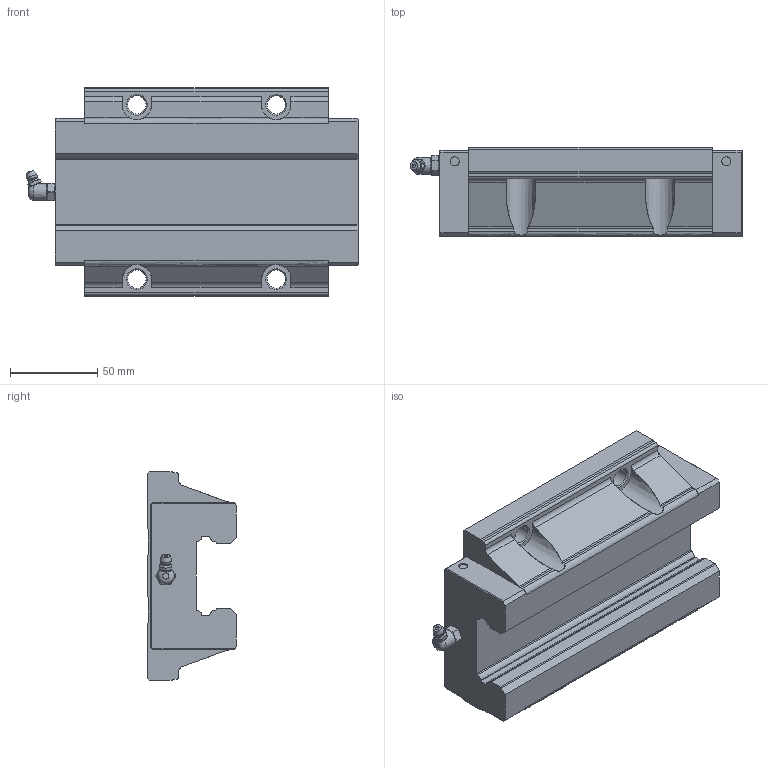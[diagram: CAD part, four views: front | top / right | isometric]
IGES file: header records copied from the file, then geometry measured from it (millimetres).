
Start section: Data from Parasolid IGES Translator 26.0.171, Copyright(c) 2006 Siemens PLM Software. All Rights Reserved.
Global section: file name: SHS45LC1SS(GK) BLOCK(B-PT1_81).igs; native system: By Siemens PLM Incorporated; preprocessor: XPlus GENERIC/IGES 26.0.171; author: Noname; organization: Noname; date: 20240514.043635; units: millimetre
Bounding box: 190.7 x 51.1 x 120 mm (x, y, z)
Surface area: 75277.2 mm2 (no closed solid volume)
Topology: 0 solids, 0 shells, 176 faces, 989 edges, 972 vertices
Faces by surface type: extrusion 99, revolution 77
